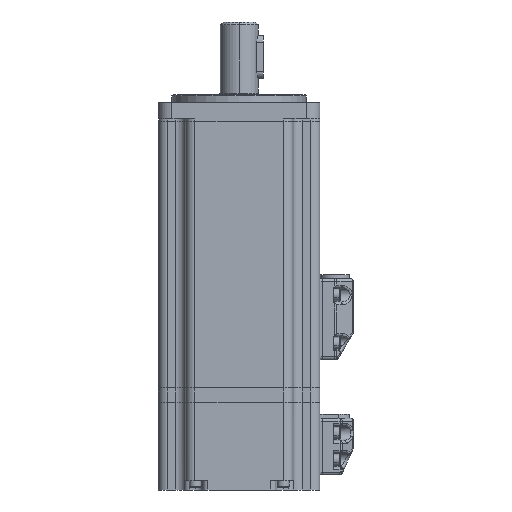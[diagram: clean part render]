
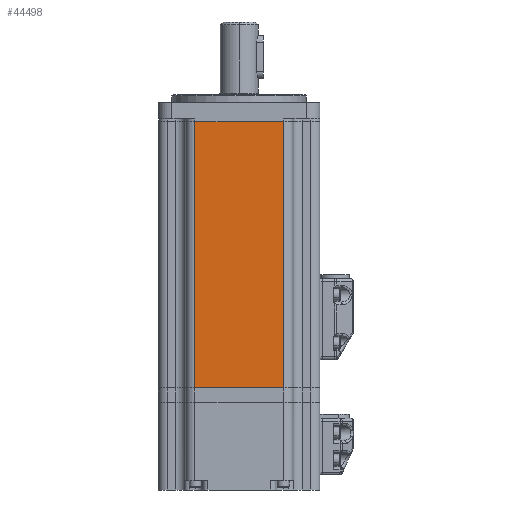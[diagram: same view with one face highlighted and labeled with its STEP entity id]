
A CAD part, front view. The second image highlights one B-rep face of the part: STEP entity #44498.
In plain terms, the highlighted planar face has unit normal (0, -1, 0).
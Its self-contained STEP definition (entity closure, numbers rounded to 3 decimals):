
#40 = VECTOR ( 'NONE', #21315, 1000. ) ;
#504 = EDGE_LOOP ( 'NONE', ( #47289, #30235, #10096, #52807 ) ) ;
#1922 = CARTESIAN_POINT ( 'NONE',  ( -20., -30., 0. ) ) ;
#2074 = CARTESIAN_POINT ( 'NONE',  ( -16.5, -30., 0. ) ) ;
#2649 = LINE ( 'NONE', #17140, #40 ) ;
#3296 = EDGE_CURVE ( 'NONE', #5852, #24669, #9455, .T. ) ;
#5852 = VERTEX_POINT ( 'NONE', #37695 ) ;
#7693 = PLANE ( 'NONE',  #44870 ) ;
#7871 = DIRECTION ( 'NONE',  ( 0., 0., 1. ) ) ;
#8763 = LINE ( 'NONE', #16099, #40519 ) ;
#9455 = LINE ( 'NONE', #1922, #52224 ) ;
#9644 = CARTESIAN_POINT ( 'NONE',  ( -16.5, -30., -99. ) ) ;
#10096 = ORIENTED_EDGE ( 'NONE', *, *, #40909, .F. ) ;
#12784 = DIRECTION ( 'NONE',  ( -1., 0., 0. ) ) ;
#14424 = DIRECTION ( 'NONE',  ( -1., 0., 0. ) ) ;
#14779 = EDGE_CURVE ( 'NONE', #32711, #5852, #8763, .T. ) ;
#16099 = CARTESIAN_POINT ( 'NONE',  ( 16.5, -30., -99. ) ) ;
#17140 = CARTESIAN_POINT ( 'NONE',  ( -16.5, -30., -99. ) ) ;
#20016 = VECTOR ( 'NONE', #12784, 1000. ) ;
#21315 = DIRECTION ( 'NONE',  ( 0., 0., -1. ) ) ;
#24458 = EDGE_CURVE ( 'NONE', #24669, #50333, #2649, .T. ) ;
#24669 = VERTEX_POINT ( 'NONE', #2074 ) ;
#29322 = CARTESIAN_POINT ( 'NONE',  ( -20., -30., -99. ) ) ;
#30235 = ORIENTED_EDGE ( 'NONE', *, *, #24458, .T. ) ;
#31037 = LINE ( 'NONE', #29322, #20016 ) ;
#32706 = DIRECTION ( 'NONE',  ( 0., 1., 0. ) ) ;
#32711 = VERTEX_POINT ( 'NONE', #35981 ) ;
#35981 = CARTESIAN_POINT ( 'NONE',  ( 16.5, -30., -99. ) ) ;
#37695 = CARTESIAN_POINT ( 'NONE',  ( 16.5, -30., 0. ) ) ;
#40519 = VECTOR ( 'NONE', #45116, 1000. ) ;
#40909 = EDGE_CURVE ( 'NONE', #32711, #50333, #31037, .T. ) ;
#44498 = ADVANCED_FACE ( 'NONE', ( #45614 ), #7693, .F. ) ;
#44870 = AXIS2_PLACEMENT_3D ( 'NONE', #45011, #32706, #7871 ) ;
#45011 = CARTESIAN_POINT ( 'NONE',  ( -20., -30., -99. ) ) ;
#45116 = DIRECTION ( 'NONE',  ( 0., 0., 1. ) ) ;
#45614 = FACE_OUTER_BOUND ( 'NONE', #504, .T. ) ;
#47289 = ORIENTED_EDGE ( 'NONE', *, *, #3296, .T. ) ;
#50333 = VERTEX_POINT ( 'NONE', #9644 ) ;
#52224 = VECTOR ( 'NONE', #14424, 1000. ) ;
#52807 = ORIENTED_EDGE ( 'NONE', *, *, #14779, .T. ) ;
